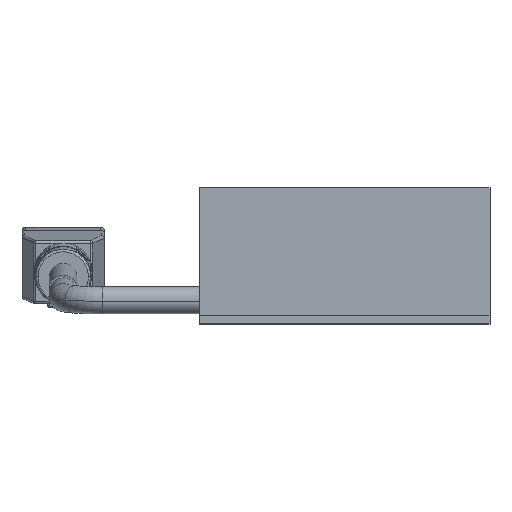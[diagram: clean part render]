
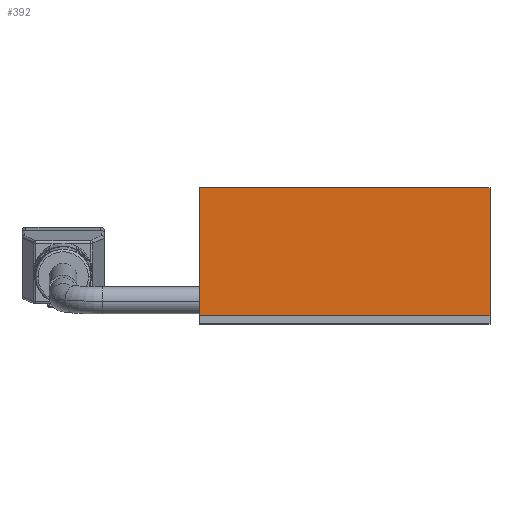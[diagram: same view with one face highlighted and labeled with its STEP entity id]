
A CAD part, top view. The second image highlights one B-rep face of the part: STEP entity #392.
In plain terms, the highlighted planar face has unit normal (0, 0, 1).
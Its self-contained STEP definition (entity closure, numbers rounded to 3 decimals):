
#55=DIRECTION('',(0.,1.,0.));
#56=VECTOR('',#55,16.3);
#57=CARTESIAN_POINT('',(18.5,1.,10.5));
#58=LINE('',#57,#56);
#63=DIRECTION('',(1.,0.,0.));
#64=VECTOR('',#63,37.);
#65=CARTESIAN_POINT('',(-18.5,1.,10.5));
#66=LINE('',#65,#64);
#99=DIRECTION('',(0.,1.,0.));
#100=VECTOR('',#99,16.3);
#101=CARTESIAN_POINT('',(-18.5,1.,10.5));
#102=LINE('',#101,#100);
#115=DIRECTION('',(1.,0.,0.));
#116=VECTOR('',#115,37.);
#117=CARTESIAN_POINT('',(-18.5,17.3,10.5));
#118=LINE('',#117,#116);
#218=CARTESIAN_POINT('',(-18.5,17.3,10.5));
#220=VERTEX_POINT('',#218);
#221=CARTESIAN_POINT('',(18.5,17.3,10.5));
#222=VERTEX_POINT('',#221);
#225=CARTESIAN_POINT('',(-18.5,1.,10.5));
#226=CARTESIAN_POINT('',(18.5,1.,10.5));
#227=VERTEX_POINT('',#225);
#228=VERTEX_POINT('',#226);
#380=CARTESIAN_POINT('',(-18.5,1.,10.5));
#381=DIRECTION('',(0.,0.,1.));
#382=DIRECTION('',(1.,0.,0.));
#383=AXIS2_PLACEMENT_3D('',#380,#381,#382);
#384=PLANE('',#383);
#385=ORIENTED_EDGE('',*,*,#359,.F.);
#386=ORIENTED_EDGE('',*,*,#306,.T.);
#388=ORIENTED_EDGE('',*,*,#387,.T.);
#389=ORIENTED_EDGE('',*,*,#343,.F.);
#390=EDGE_LOOP('',(#385,#386,#388,#389));
#391=FACE_OUTER_BOUND('',#390,.F.);
#392=ADVANCED_FACE('',(#391),#384,.T.);
#306=EDGE_CURVE('',#227,#220,#102,.T.);
#343=EDGE_CURVE('',#228,#222,#58,.T.);
#359=EDGE_CURVE('',#227,#228,#66,.T.);
#387=EDGE_CURVE('',#220,#222,#118,.T.);
